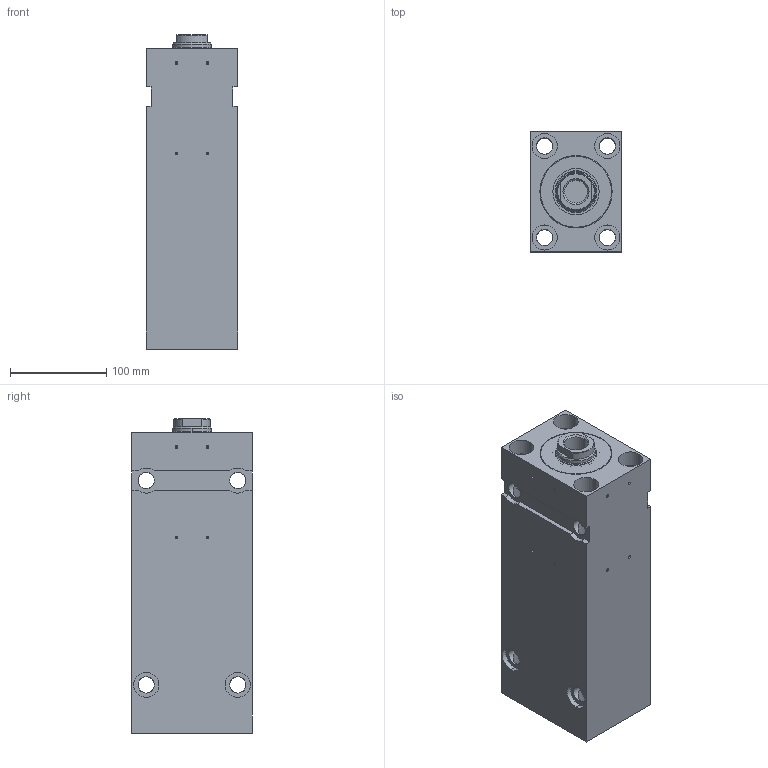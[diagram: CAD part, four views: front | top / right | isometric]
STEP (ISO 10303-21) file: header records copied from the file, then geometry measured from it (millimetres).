
FILE_DESCRIPTION (( 'STEP AP203' ), '1' );
FILE_NAME ('BZ_320.63_40.78.201.200 PP.KBC50__DH_0_.STEP', '2022-05-10T11:04:25', ( '' ), ( '' ), 'SwSTEP 2.0', 'SolidWorks 2020', '' );
FILE_SCHEMA (( 'CONFIG_CONTROL_DESIGN' ));
Length unit declared in the file: millimetre
Products named in the file (7): BZ_320.63_40.78.201.200 PP.KBC50__DH_0_; _Gehaeuse f. BZ320.63_40.Fehler in IDBF.201.200Fehler in IDNT00(1350frei278000))10^BZ_320.63_40.78.201.200 PP.KBC50__DH_0_(2)_BZ_320.63_40.78.201.200 PP.KBC50__DH_0_; _Dichtungssatz f. BZ_RZ_FZ.63_40.xx.201.200 Artikelnr._ 053077(0)^BZ_320.63_40.78.201.200 PP.KBC50__DH_0_(2)_BZ_320.63_40.78.201.200 PP.KBC50__DH_0_; BZ_320.63_40.78.201.200 PP.KBC50__DH_0_(2)^BZ_320.63_40.78.201.200 PP.KBC50__DH_0_; _Verschraubung komplett mit Dichtung f. BZ_RZ_FZ.63_40.201, Art.-Nr._ 042987(201)^BZ_320.63_40.78.201.200 PP.KBC50__DH_0_(2)_BZ_320.63_40.78.201.200 PP.KBC50__DH_0_; _Kolbenstange komplett f. BZ_RZ_FZ.63_40.xx.201.200(0_11 1 27 3 0 0 14 40 0 0 0)0^BZ_320.63_40.78.201.200 PP.KBC50__DH_0_(2)_BZ_320.63_40.78.201.200 PP.KBC50__DH_0_; _Verschraubung hinten komplett mit Dichtung f. BZ500.63_40 LLL^BZ_320.63_40.78.201.200 PP.KBC50__DH_0_(2)_BZ_320.63_40.78.201.200 PP.KBC50__DH_0_
Assembly tree (6 placements, depth 3):
  BZ_320.63_40.78.201.200 PP.KBC50__DH_0_
    BZ_320.63_40.78.201.200 PP.KBC50__DH_0_(2)^BZ_320.63_40.78.201.200 PP.KBC50__DH_0_
      _Gehaeuse f. BZ320.63_40.Fehler in IDBF.201.200Fehler in IDNT00(1350frei278000))10^BZ_320.63_40.78.201.200 PP.KBC50__DH_0_(2)_BZ_320.63_40.78.201.200 PP.KBC50__DH_0_
      _Verschraubung hinten komplett mit Dichtung f. BZ500.63_40 LLL^BZ_320.63_40.78.201.200 PP.KBC50__DH_0_(2)_BZ_320.63_40.78.201.200 PP.KBC50__DH_0_
      _Verschraubung komplett mit Dichtung f. BZ_RZ_FZ.63_40.201, Art.-Nr._ 042987(201)^BZ_320.63_40.78.201.200 PP.KBC50__DH_0_(2)_BZ_320.63_40.78.201.200 PP.KBC50__DH_0_
      _Dichtungssatz f. BZ_RZ_FZ.63_40.xx.201.200 Artikelnr._ 053077(0)^BZ_320.63_40.78.201.200 PP.KBC50__DH_0_(2)_BZ_320.63_40.78.201.200 PP.KBC50__DH_0_
      _Kolbenstange komplett f. BZ_RZ_FZ.63_40.xx.201.200(0_11 1 27 3 0 0 14 40 0 0 0)0^BZ_320.63_40.78.201.200 PP.KBC50__DH_0_(2)_BZ_320.63_40.78.201.200 PP.KBC50__DH_0_
Bounding box: 95 x 125 x 326 mm (x, y, z)
Volume: 2902103.5 mm3; surface area: 389876.2 mm2
Topology: 5 solids, 5 shells, 245 faces, 597 edges, 356 vertices
Faces by surface type: cylinder 150, plane 57, cone 38
Entity records: 8052 total; most frequent: CARTESIAN_POINT 1624, DIRECTION 1259, ORIENTED_EDGE 1146, EDGE_CURVE 573, AXIS2_PLACEMENT_3D 503, VERTEX_POINT 356, EDGE_LOOP 305, VECTOR 253
